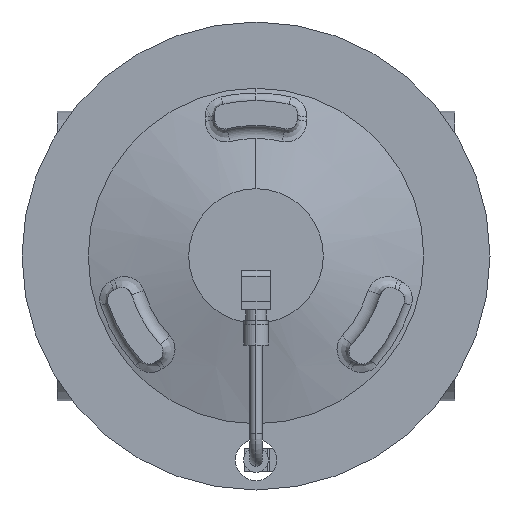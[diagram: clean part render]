
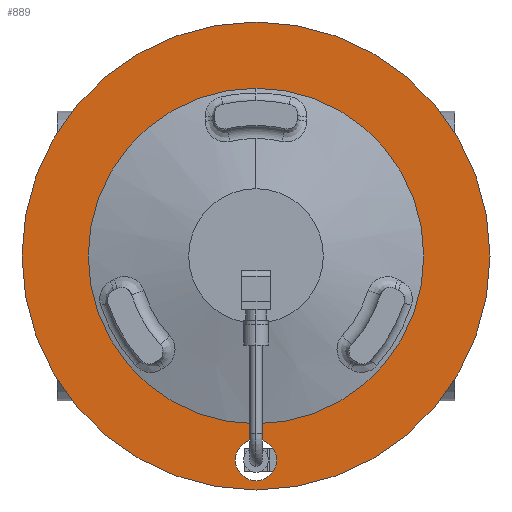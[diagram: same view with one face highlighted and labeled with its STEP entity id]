
A CAD part, front view. The second image highlights one B-rep face of the part: STEP entity #889.
In plain terms, the highlighted planar face has unit normal (0, -1, 0).
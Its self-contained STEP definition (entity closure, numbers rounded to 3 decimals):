
#515 = EDGE_CURVE ( 'NONE', #7711, #4570, #1357, .T. ) ;
#889 = ADVANCED_FACE ( 'NONE', ( #12431, #11207, #8487 ), #11035, .T. ) ;
#1328 = VERTEX_POINT ( 'NONE', #16727 ) ;
#1357 = CIRCLE ( 'NONE', #2748, 81.017 ) ;
#1563 = DIRECTION ( 'NONE',  ( 0., -1., 0. ) ) ;
#2042 = CARTESIAN_POINT ( 'NONE',  ( 0., -151.8, -113. ) ) ;
#2248 = ORIENTED_EDGE ( 'NONE', *, *, #515, .T. ) ;
#2748 = AXIS2_PLACEMENT_3D ( 'NONE', #8724, #8812, #15548 ) ;
#2768 = ORIENTED_EDGE ( 'NONE', *, *, #3651, .F. ) ;
#2883 = VERTEX_POINT ( 'NONE', #13691 ) ;
#3027 = DIRECTION ( 'NONE',  ( 0., 1., 0. ) ) ;
#3202 = DIRECTION ( 'NONE',  ( 0., 0., 1. ) ) ;
#3313 = DIRECTION ( 'NONE',  ( 0., 1., 0. ) ) ;
#3651 = EDGE_CURVE ( 'NONE', #1328, #12781, #6993, .T. ) ;
#3695 = CIRCLE ( 'NONE', #13479, 10. ) ;
#3940 = DIRECTION ( 'NONE',  ( 0., 1., 0. ) ) ;
#4117 = CARTESIAN_POINT ( 'NONE',  ( 0., -151.8, -98.5 ) ) ;
#4281 = CIRCLE ( 'NONE', #6535, 113. ) ;
#4311 = DIRECTION ( 'NONE',  ( 0., -1., 0. ) ) ;
#4570 = VERTEX_POINT ( 'NONE', #8854 ) ;
#5088 = DIRECTION ( 'NONE',  ( 0., 0., 1. ) ) ;
#5373 = ORIENTED_EDGE ( 'NONE', *, *, #11803, .F. ) ;
#5660 = CARTESIAN_POINT ( 'NONE',  ( 0., -151.8, -88.5 ) ) ;
#5754 = CIRCLE ( 'NONE', #11341, 81.017 ) ;
#5864 = CARTESIAN_POINT ( 'NONE',  ( 0., -151.8, -81.017 ) ) ;
#6535 = AXIS2_PLACEMENT_3D ( 'NONE', #11205, #3313, #13996 ) ;
#6548 = ORIENTED_EDGE ( 'NONE', *, *, #10790, .F. ) ;
#6993 = CIRCLE ( 'NONE', #8947, 113. ) ;
#7353 = AXIS2_PLACEMENT_3D ( 'NONE', #4117, #1563, #10773 ) ;
#7711 = VERTEX_POINT ( 'NONE', #5864 ) ;
#8487 = FACE_OUTER_BOUND ( 'NONE', #14032, .T. ) ;
#8724 = CARTESIAN_POINT ( 'NONE',  ( 0., -151.8, 0. ) ) ;
#8812 = DIRECTION ( 'NONE',  ( 0., 1., 0. ) ) ;
#8854 = CARTESIAN_POINT ( 'NONE',  ( 0., -151.8, 81.017 ) ) ;
#8896 = ORIENTED_EDGE ( 'NONE', *, *, #11421, .F. ) ;
#8947 = AXIS2_PLACEMENT_3D ( 'NONE', #13222, #3940, #5088 ) ;
#9508 = EDGE_LOOP ( 'NONE', ( #8896, #5373 ) ) ;
#10404 = VERTEX_POINT ( 'NONE', #5660 ) ;
#10635 = AXIS2_PLACEMENT_3D ( 'NONE', #14971, #10859, #14884 ) ;
#10773 = DIRECTION ( 'NONE',  ( 0., 0., -1. ) ) ;
#10790 = EDGE_CURVE ( 'NONE', #12781, #1328, #4281, .T. ) ;
#10859 = DIRECTION ( 'NONE',  ( 0., -1., 0. ) ) ;
#11035 = PLANE ( 'NONE',  #10635 ) ;
#11205 = CARTESIAN_POINT ( 'NONE',  ( 0., -151.8, 0. ) ) ;
#11207 = FACE_BOUND ( 'NONE', #13407, .T. ) ;
#11341 = AXIS2_PLACEMENT_3D ( 'NONE', #13886, #3027, #3202 ) ;
#11421 = EDGE_CURVE ( 'NONE', #10404, #2883, #3695, .T. ) ;
#11803 = EDGE_CURVE ( 'NONE', #2883, #10404, #12953, .T. ) ;
#12371 = DIRECTION ( 'NONE',  ( 0., 0., -1. ) ) ;
#12431 = FACE_BOUND ( 'NONE', #9508, .T. ) ;
#12781 = VERTEX_POINT ( 'NONE', #2042 ) ;
#12953 = CIRCLE ( 'NONE', #7353, 10. ) ;
#13222 = CARTESIAN_POINT ( 'NONE',  ( 0., -151.8, 0. ) ) ;
#13407 = EDGE_LOOP ( 'NONE', ( #15151, #2248 ) ) ;
#13479 = AXIS2_PLACEMENT_3D ( 'NONE', #13851, #4311, #12371 ) ;
#13691 = CARTESIAN_POINT ( 'NONE',  ( 0., -151.8, -108.5 ) ) ;
#13851 = CARTESIAN_POINT ( 'NONE',  ( 0., -151.8, -98.5 ) ) ;
#13886 = CARTESIAN_POINT ( 'NONE',  ( 0., -151.8, 0. ) ) ;
#13996 = DIRECTION ( 'NONE',  ( 0., 0., 1. ) ) ;
#14032 = EDGE_LOOP ( 'NONE', ( #2768, #6548 ) ) ;
#14884 = DIRECTION ( 'NONE',  ( 0., 0., -1. ) ) ;
#14970 = EDGE_CURVE ( 'NONE', #4570, #7711, #5754, .T. ) ;
#14971 = CARTESIAN_POINT ( 'NONE',  ( -113., -151.8, 0. ) ) ;
#15151 = ORIENTED_EDGE ( 'NONE', *, *, #14970, .T. ) ;
#15548 = DIRECTION ( 'NONE',  ( 0., 0., 1. ) ) ;
#16727 = CARTESIAN_POINT ( 'NONE',  ( 0., -151.8, 113. ) ) ;
